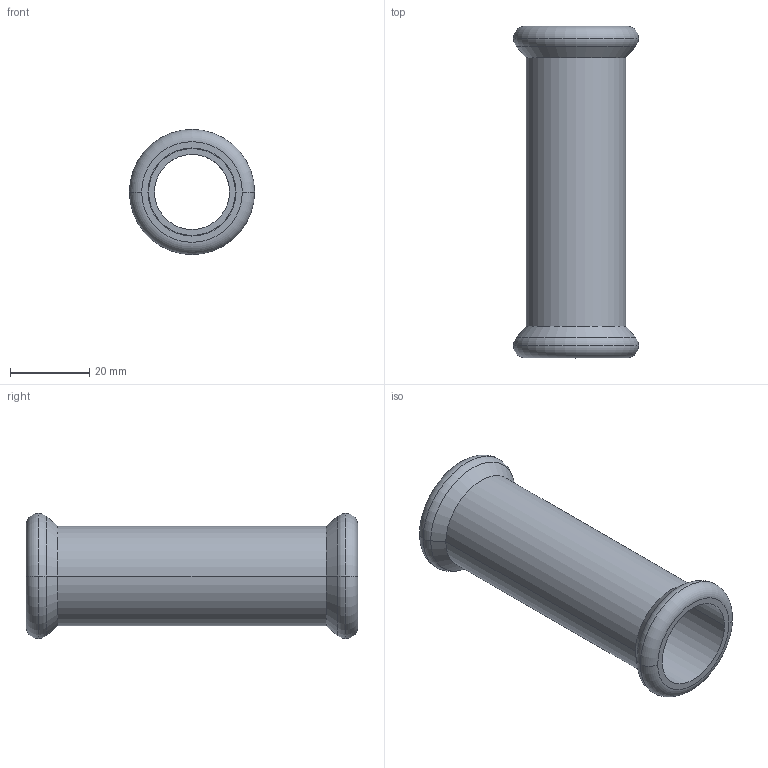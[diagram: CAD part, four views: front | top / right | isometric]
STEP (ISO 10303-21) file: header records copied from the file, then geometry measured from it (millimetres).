
FILE_DESCRIPTION(('CoCreate Modeling STEP Export'),'2;1');
FILE_NAME('C1403 22x22.stp','2014-11-07T14:04:46',(''),(''),'CoCreate Modeling STEP processor for AP214 (Solid Model)','CoCreate Modeling 17.00A 17-Jun-2010 (C) Parametric Technology GmbH','');
FILE_SCHEMA(('AUTOMOTIVE_DESIGN { 1 0 10303 214 1 1 1 1 }'));
Length unit declared in the file: millimetre
Products named in the file (2): C1403_22x22
Assembly tree (1 placements, depth 2):
  C1403_22x22
    C1403_22x22
Bounding box: 31.7 x 84 x 31.7 mm (x, y, z)
Volume: 16959.9 mm3; surface area: 13438.3 mm2
Topology: 1 solids, 1 shells, 30 faces, 62 edges, 38 vertices
Faces by surface type: cylinder 12, torus 8, plane 6, cone 4
Entity records: 691 total; most frequent: ORIENTED_EDGE 124, DIRECTION 104, CARTESIAN_POINT 98, EDGE_CURVE 62, AXIS2_PLACEMENT_3D 44, VERTEX_POINT 38, EDGE_LOOP 36, FACE_OUTER_BOUND 30
